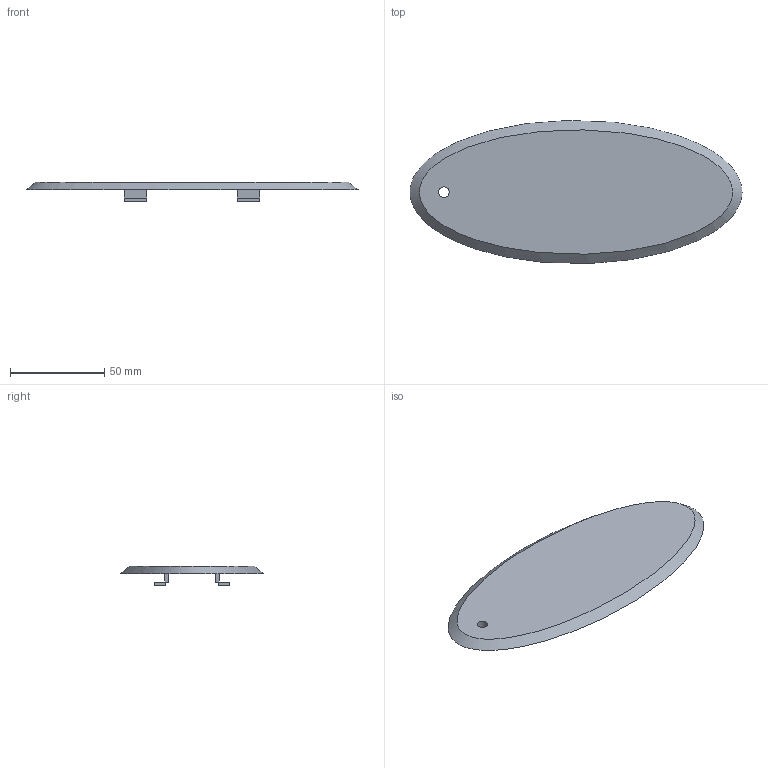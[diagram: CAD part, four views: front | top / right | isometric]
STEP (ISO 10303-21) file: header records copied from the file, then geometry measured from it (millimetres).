
FILE_DESCRIPTION(('Open CASCADE Model'),'2;1');
FILE_NAME('Open CASCADE Shape Model','2026-09-13T15:24:55',('Author'),( 'Open CASCADE'),'Open CASCADE STEP processor 7.9','build123d', 'Unknown');
FILE_SCHEMA(('AUTOMOTIVE_DESIGN { 1 0 10303 214 1 1 1 1 }'));
Length unit declared in the file: millimetre
Products named in the file (2): =>[0:1:1:2]; COMPOUND
Assembly tree (1 placements, depth 2):
  =>[0:1:1:2]
    COMPOUND
Bounding box: 176 x 75.82 x 10.4 mm (x, y, z)
Volume: 39098.9 mm3; surface area: 22930.9 mm2
Topology: 1 solids, 1 shells, 40 faces, 102 edges, 68 vertices
Faces by surface type: plane 38, bspline 1, cylinder 1
Full cylindrical faces by diameter (mm): 5.6 x1
Entity records: 2559 total; most frequent: CARTESIAN_POINT 512, DIRECTION 351, LINE 257, VECTOR 257, ORIENTED_EDGE 204, PCURVE 204, DEFINITIONAL_REPRESENTATION 204, EDGE_CURVE 102
